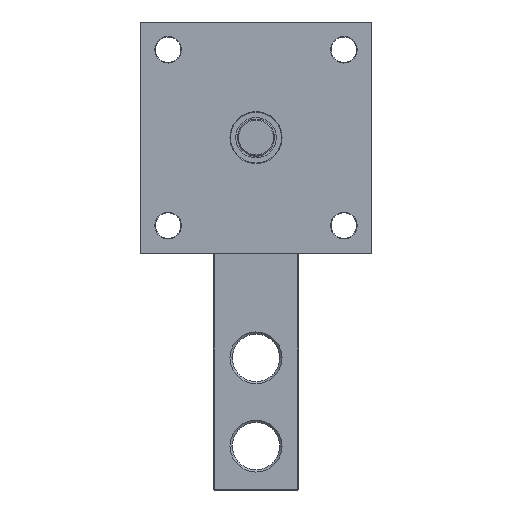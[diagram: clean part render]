
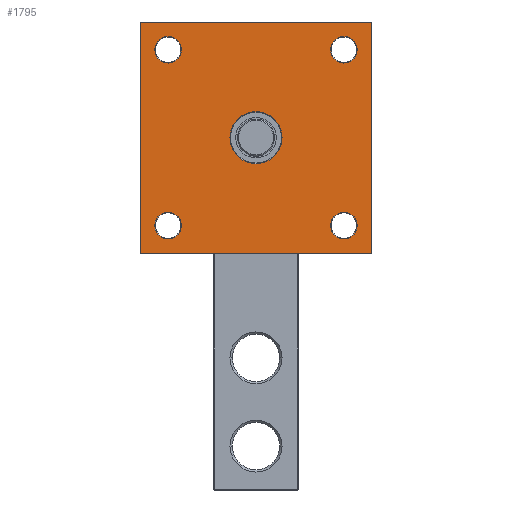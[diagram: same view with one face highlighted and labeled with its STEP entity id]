
A CAD part, front view. The second image highlights one B-rep face of the part: STEP entity #1795.
In plain terms, the highlighted planar face has unit normal (0, -1, 0).
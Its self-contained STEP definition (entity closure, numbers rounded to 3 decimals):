
#30 = CARTESIAN_POINT ( 'NONE',  ( 50., 0., 50. ) ) ;
#53 = ORIENTED_EDGE ( 'NONE', *, *, #4023, .T. ) ;
#164 = DIRECTION ( 'NONE',  ( 0., 1., 0. ) ) ;
#233 = ORIENTED_EDGE ( 'NONE', *, *, #4719, .F. ) ;
#344 = VERTEX_POINT ( 'NONE', #5771 ) ;
#383 = ORIENTED_EDGE ( 'NONE', *, *, #5763, .T. ) ;
#400 = EDGE_CURVE ( 'NONE', #4799, #344, #1711, .T. ) ;
#454 = LINE ( 'NONE', #4109, #4405 ) ;
#459 = ORIENTED_EDGE ( 'NONE', *, *, #5579, .T. ) ;
#469 = CARTESIAN_POINT ( 'NONE',  ( -38., 0., -38. ) ) ;
#500 = VERTEX_POINT ( 'NONE', #3180 ) ;
#504 = CARTESIAN_POINT ( 'NONE',  ( 38., 0., 43.75 ) ) ;
#523 = VECTOR ( 'NONE', #3663, 1000. ) ;
#535 = EDGE_LOOP ( 'NONE', ( #383, #2921 ) ) ;
#550 = CARTESIAN_POINT ( 'NONE',  ( 38., 0., -32.25 ) ) ;
#634 = DIRECTION ( 'NONE',  ( 0., 1., 0. ) ) ;
#649 = DIRECTION ( 'NONE',  ( 0., 1., 0. ) ) ;
#662 = VERTEX_POINT ( 'NONE', #1794 ) ;
#691 = ORIENTED_EDGE ( 'NONE', *, *, #400, .T. ) ;
#753 = EDGE_LOOP ( 'NONE', ( #4810, #233, #1425, #2326 ) ) ;
#755 = VERTEX_POINT ( 'NONE', #4638 ) ;
#827 = EDGE_CURVE ( 'NONE', #1499, #1635, #454, .T. ) ;
#829 = CARTESIAN_POINT ( 'NONE',  ( -50., 0., 50. ) ) ;
#966 = VERTEX_POINT ( 'NONE', #4667 ) ;
#991 = VERTEX_POINT ( 'NONE', #4258 ) ;
#1017 = EDGE_CURVE ( 'NONE', #662, #5655, #2371, .T. ) ;
#1076 = DIRECTION ( 'NONE',  ( 0., 0., 1. ) ) ;
#1097 = AXIS2_PLACEMENT_3D ( 'NONE', #1552, #2943, #3031 ) ;
#1128 = EDGE_CURVE ( 'NONE', #5707, #500, #5846, .T. ) ;
#1166 = DIRECTION ( 'NONE',  ( 0., 1., 0. ) ) ;
#1292 = DIRECTION ( 'NONE',  ( 0., 1., 0. ) ) ;
#1307 = AXIS2_PLACEMENT_3D ( 'NONE', #3086, #1292, #4921 ) ;
#1425 = ORIENTED_EDGE ( 'NONE', *, *, #5536, .F. ) ;
#1435 = FACE_BOUND ( 'NONE', #3019, .T. ) ;
#1454 = EDGE_LOOP ( 'NONE', ( #459, #3868 ) ) ;
#1491 = AXIS2_PLACEMENT_3D ( 'NONE', #5393, #3601, #2240 ) ;
#1499 = VERTEX_POINT ( 'NONE', #3668 ) ;
#1552 = CARTESIAN_POINT ( 'NONE',  ( -38., 0., 38. ) ) ;
#1635 = VERTEX_POINT ( 'NONE', #3517 ) ;
#1675 = AXIS2_PLACEMENT_3D ( 'NONE', #4689, #634, #5473 ) ;
#1711 = CIRCLE ( 'NONE', #2768, 5.75 ) ;
#1758 = AXIS2_PLACEMENT_3D ( 'NONE', #2520, #649, #3287 ) ;
#1763 = AXIS2_PLACEMENT_3D ( 'NONE', #2910, #164, #5081 ) ;
#1794 = CARTESIAN_POINT ( 'NONE',  ( -38., 0., -32.25 ) ) ;
#1795 = ADVANCED_FACE ( 'NONE', ( #1435, #5531, #3315, #5045, #2307, #4110 ), #5100, .F. ) ;
#1846 = EDGE_LOOP ( 'NONE', ( #53, #691 ) ) ;
#1861 = ORIENTED_EDGE ( 'NONE', *, *, #5250, .T. ) ;
#2240 = DIRECTION ( 'NONE',  ( 0., 0., 1. ) ) ;
#2280 = CARTESIAN_POINT ( 'NONE',  ( 38., 0., -38. ) ) ;
#2307 = FACE_BOUND ( 'NONE', #3715, .T. ) ;
#2308 = EDGE_CURVE ( 'NONE', #5585, #991, #3670, .T. ) ;
#2326 = ORIENTED_EDGE ( 'NONE', *, *, #827, .F. ) ;
#2331 = DIRECTION ( 'NONE',  ( 0., 1., 0. ) ) ;
#2352 = CIRCLE ( 'NONE', #1491, 5.75 ) ;
#2371 = CIRCLE ( 'NONE', #4817, 5.75 ) ;
#2422 = VERTEX_POINT ( 'NONE', #3056 ) ;
#2520 = CARTESIAN_POINT ( 'NONE',  ( 38., 0., 38. ) ) ;
#2521 = DIRECTION ( 'NONE',  ( 0., 0., 1. ) ) ;
#2608 = LINE ( 'NONE', #4407, #4160 ) ;
#2643 = CARTESIAN_POINT ( 'NONE',  ( 0., 0., -11.25 ) ) ;
#2768 = AXIS2_PLACEMENT_3D ( 'NONE', #2280, #2331, #3602 ) ;
#2793 = EDGE_CURVE ( 'NONE', #991, #5585, #2352, .T. ) ;
#2807 = DIRECTION ( 'NONE',  ( 0., 0., 1. ) ) ;
#2888 = ORIENTED_EDGE ( 'NONE', *, *, #2308, .T. ) ;
#2910 = CARTESIAN_POINT ( 'NONE',  ( 38., 0., -38. ) ) ;
#2911 = CARTESIAN_POINT ( 'NONE',  ( -38., 0., 43.75 ) ) ;
#2921 = ORIENTED_EDGE ( 'NONE', *, *, #1017, .T. ) ;
#2943 = DIRECTION ( 'NONE',  ( 0., 1., 0. ) ) ;
#3019 = EDGE_LOOP ( 'NONE', ( #3243, #1861 ) ) ;
#3031 = DIRECTION ( 'NONE',  ( 0., 0., 1. ) ) ;
#3056 = CARTESIAN_POINT ( 'NONE',  ( -50., 0., 50. ) ) ;
#3086 = CARTESIAN_POINT ( 'NONE',  ( 0., 0., 0. ) ) ;
#3103 = CIRCLE ( 'NONE', #1675, 11.25 ) ;
#3146 = DIRECTION ( 'NONE',  ( 0., 1., 0. ) ) ;
#3180 = CARTESIAN_POINT ( 'NONE',  ( 0., 0., 11.25 ) ) ;
#3219 = DIRECTION ( 'NONE',  ( -1., 0., 0. ) ) ;
#3243 = ORIENTED_EDGE ( 'NONE', *, *, #1128, .T. ) ;
#3287 = DIRECTION ( 'NONE',  ( 0., 0., 1. ) ) ;
#3315 = FACE_BOUND ( 'NONE', #1846, .T. ) ;
#3358 = VERTEX_POINT ( 'NONE', #504 ) ;
#3498 = AXIS2_PLACEMENT_3D ( 'NONE', #5223, #1166, #3523 ) ;
#3517 = CARTESIAN_POINT ( 'NONE',  ( -50., 0., -50. ) ) ;
#3523 = DIRECTION ( 'NONE',  ( 0., 0., 1. ) ) ;
#3585 = AXIS2_PLACEMENT_3D ( 'NONE', #30, #4175, #2807 ) ;
#3601 = DIRECTION ( 'NONE',  ( 0., 1., 0. ) ) ;
#3602 = DIRECTION ( 'NONE',  ( 0., 0., 1. ) ) ;
#3663 = DIRECTION ( 'NONE',  ( 1., 0., 0. ) ) ;
#3668 = CARTESIAN_POINT ( 'NONE',  ( 50., 0., -50. ) ) ;
#3670 = CIRCLE ( 'NONE', #1097, 5.75 ) ;
#3701 = LINE ( 'NONE', #829, #523 ) ;
#3715 = EDGE_LOOP ( 'NONE', ( #4633, #2888 ) ) ;
#3762 = CARTESIAN_POINT ( 'NONE',  ( -38., 0., -43.75 ) ) ;
#3775 = CIRCLE ( 'NONE', #1758, 5.75 ) ;
#3868 = ORIENTED_EDGE ( 'NONE', *, *, #3881, .T. ) ;
#3881 = EDGE_CURVE ( 'NONE', #3358, #966, #3775, .T. ) ;
#3890 = CARTESIAN_POINT ( 'NONE',  ( -50., 0., -50. ) ) ;
#3978 = CIRCLE ( 'NONE', #3498, 5.75 ) ;
#4023 = EDGE_CURVE ( 'NONE', #344, #4799, #5065, .T. ) ;
#4109 = CARTESIAN_POINT ( 'NONE',  ( -50., 0., -50. ) ) ;
#4110 = FACE_OUTER_BOUND ( 'NONE', #753, .T. ) ;
#4160 = VECTOR ( 'NONE', #4826, 1000. ) ;
#4175 = DIRECTION ( 'NONE',  ( 0., 1., 0. ) ) ;
#4258 = CARTESIAN_POINT ( 'NONE',  ( -38., 0., 32.25 ) ) ;
#4273 = DIRECTION ( 'NONE',  ( 0., 1., 0. ) ) ;
#4405 = VECTOR ( 'NONE', #3219, 1000. ) ;
#4407 = CARTESIAN_POINT ( 'NONE',  ( 50., 0., -50. ) ) ;
#4538 = DIRECTION ( 'NONE',  ( 0., 0., 1. ) ) ;
#4567 = EDGE_CURVE ( 'NONE', #755, #1499, #2608, .T. ) ;
#4633 = ORIENTED_EDGE ( 'NONE', *, *, #2793, .T. ) ;
#4638 = CARTESIAN_POINT ( 'NONE',  ( 50., 0., 50. ) ) ;
#4667 = CARTESIAN_POINT ( 'NONE',  ( 38., 0., 32.25 ) ) ;
#4689 = CARTESIAN_POINT ( 'NONE',  ( 0., 0., 0. ) ) ;
#4719 = EDGE_CURVE ( 'NONE', #2422, #755, #3701, .T. ) ;
#4742 = LINE ( 'NONE', #3890, #5179 ) ;
#4799 = VERTEX_POINT ( 'NONE', #550 ) ;
#4810 = ORIENTED_EDGE ( 'NONE', *, *, #4567, .F. ) ;
#4814 = AXIS2_PLACEMENT_3D ( 'NONE', #5167, #4273, #2521 ) ;
#4817 = AXIS2_PLACEMENT_3D ( 'NONE', #469, #3146, #4538 ) ;
#4826 = DIRECTION ( 'NONE',  ( 0., 0., -1. ) ) ;
#4921 = DIRECTION ( 'NONE',  ( 0., 0., 1. ) ) ;
#5045 = FACE_BOUND ( 'NONE', #1454, .T. ) ;
#5065 = CIRCLE ( 'NONE', #1763, 5.75 ) ;
#5081 = DIRECTION ( 'NONE',  ( 0., 0., 1. ) ) ;
#5100 = PLANE ( 'NONE',  #3585 ) ;
#5167 = CARTESIAN_POINT ( 'NONE',  ( 38., 0., 38. ) ) ;
#5179 = VECTOR ( 'NONE', #1076, 1000. ) ;
#5223 = CARTESIAN_POINT ( 'NONE',  ( -38., 0., -38. ) ) ;
#5250 = EDGE_CURVE ( 'NONE', #500, #5707, #3103, .T. ) ;
#5274 = CIRCLE ( 'NONE', #4814, 5.75 ) ;
#5393 = CARTESIAN_POINT ( 'NONE',  ( -38., 0., 38. ) ) ;
#5473 = DIRECTION ( 'NONE',  ( 0., 0., 1. ) ) ;
#5531 = FACE_BOUND ( 'NONE', #535, .T. ) ;
#5536 = EDGE_CURVE ( 'NONE', #1635, #2422, #4742, .T. ) ;
#5579 = EDGE_CURVE ( 'NONE', #966, #3358, #5274, .T. ) ;
#5585 = VERTEX_POINT ( 'NONE', #2911 ) ;
#5655 = VERTEX_POINT ( 'NONE', #3762 ) ;
#5707 = VERTEX_POINT ( 'NONE', #2643 ) ;
#5763 = EDGE_CURVE ( 'NONE', #5655, #662, #3978, .T. ) ;
#5771 = CARTESIAN_POINT ( 'NONE',  ( 38., 0., -43.75 ) ) ;
#5846 = CIRCLE ( 'NONE', #1307, 11.25 ) ;
